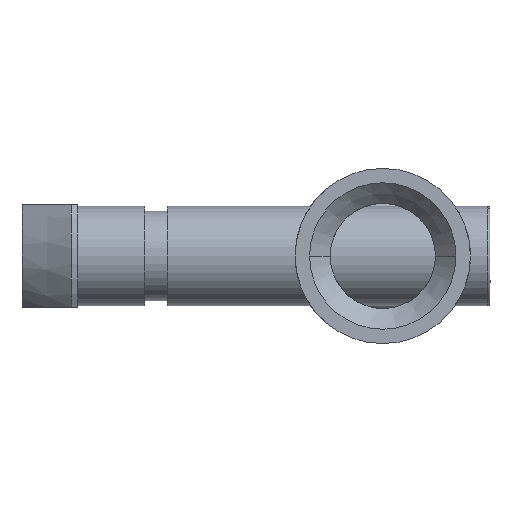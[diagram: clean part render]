
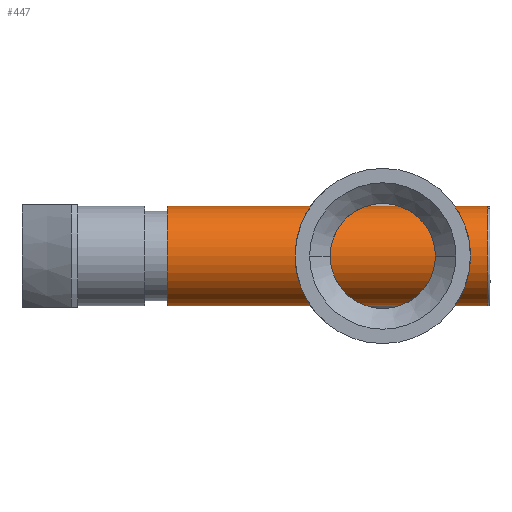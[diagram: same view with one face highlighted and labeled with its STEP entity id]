
A CAD part, left-side view. The second image highlights one B-rep face of the part: STEP entity #447.
In plain terms, the highlighted cylindrical face has radius 4.85 mm (diameter 9.7 mm), a partial arc.
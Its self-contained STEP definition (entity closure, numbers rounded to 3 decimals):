
#109 = CIRCLE ( 'NONE', #1523, 4.85 ) ;
#212 = VECTOR ( 'NONE', #1677, 1000. ) ;
#281 = CARTESIAN_POINT ( 'NONE',  ( 31.1, 0., -4.85 ) ) ;
#312 = ORIENTED_EDGE ( 'NONE', *, *, #2470, .F. ) ;
#405 = CARTESIAN_POINT ( 'NONE',  ( 31.3, 0., 4.85 ) ) ;
#447 = ADVANCED_FACE ( 'NONE', ( #1867 ), #1342, .T. ) ;
#458 = EDGE_CURVE ( 'NONE', #2043, #2370, #109, .T. ) ;
#587 = LINE ( 'NONE', #405, #212 ) ;
#623 = CARTESIAN_POINT ( 'NONE',  ( 31.1, 0., 4.85 ) ) ;
#662 = DIRECTION ( 'NONE',  ( 1., 0., 0. ) ) ;
#731 = CARTESIAN_POINT ( 'NONE',  ( 0., 0., 4.85 ) ) ;
#1054 = DIRECTION ( 'NONE',  ( -1., 0., 0. ) ) ;
#1116 = ORIENTED_EDGE ( 'NONE', *, *, #1505, .T. ) ;
#1127 = CARTESIAN_POINT ( 'NONE',  ( 31.3, 0., 0. ) ) ;
#1135 = DIRECTION ( 'NONE',  ( 0., 0., 1. ) ) ;
#1181 = DIRECTION ( 'NONE',  ( -1., 0., 0. ) ) ;
#1211 = EDGE_LOOP ( 'NONE', ( #312, #1587, #1116, #1918 ) ) ;
#1290 = DIRECTION ( 'NONE',  ( -1., 0., 0. ) ) ;
#1342 = CYLINDRICAL_SURFACE ( 'NONE', #1651, 4.85 ) ;
#1505 = EDGE_CURVE ( 'NONE', #2370, #2154, #587, .T. ) ;
#1523 = AXIS2_PLACEMENT_3D ( 'NONE', #2439, #1181, #1943 ) ;
#1587 = ORIENTED_EDGE ( 'NONE', *, *, #458, .T. ) ;
#1601 = LINE ( 'NONE', #1718, #1724 ) ;
#1651 = AXIS2_PLACEMENT_3D ( 'NONE', #1127, #1054, #1135 ) ;
#1677 = DIRECTION ( 'NONE',  ( -1., 0., 0. ) ) ;
#1718 = CARTESIAN_POINT ( 'NONE',  ( 31.3, 0., -4.85 ) ) ;
#1724 = VECTOR ( 'NONE', #1290, 1000. ) ;
#1853 = AXIS2_PLACEMENT_3D ( 'NONE', #1929, #662, #2120 ) ;
#1867 = FACE_OUTER_BOUND ( 'NONE', #1211, .T. ) ;
#1918 = ORIENTED_EDGE ( 'NONE', *, *, #1962, .T. ) ;
#1929 = CARTESIAN_POINT ( 'NONE',  ( 0., 0., 0. ) ) ;
#1943 = DIRECTION ( 'NONE',  ( 0., 0., 1. ) ) ;
#1962 = EDGE_CURVE ( 'NONE', #2154, #2280, #2516, .T. ) ;
#2043 = VERTEX_POINT ( 'NONE', #281 ) ;
#2120 = DIRECTION ( 'NONE',  ( 0., 0., 1. ) ) ;
#2154 = VERTEX_POINT ( 'NONE', #731 ) ;
#2280 = VERTEX_POINT ( 'NONE', #2617 ) ;
#2370 = VERTEX_POINT ( 'NONE', #623 ) ;
#2439 = CARTESIAN_POINT ( 'NONE',  ( 31.1, 0., 0. ) ) ;
#2470 = EDGE_CURVE ( 'NONE', #2043, #2280, #1601, .T. ) ;
#2516 = CIRCLE ( 'NONE', #1853, 4.85 ) ;
#2617 = CARTESIAN_POINT ( 'NONE',  ( 0., 0., -4.85 ) ) ;
